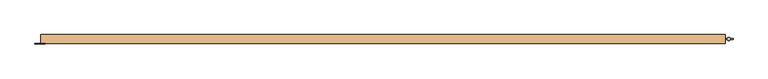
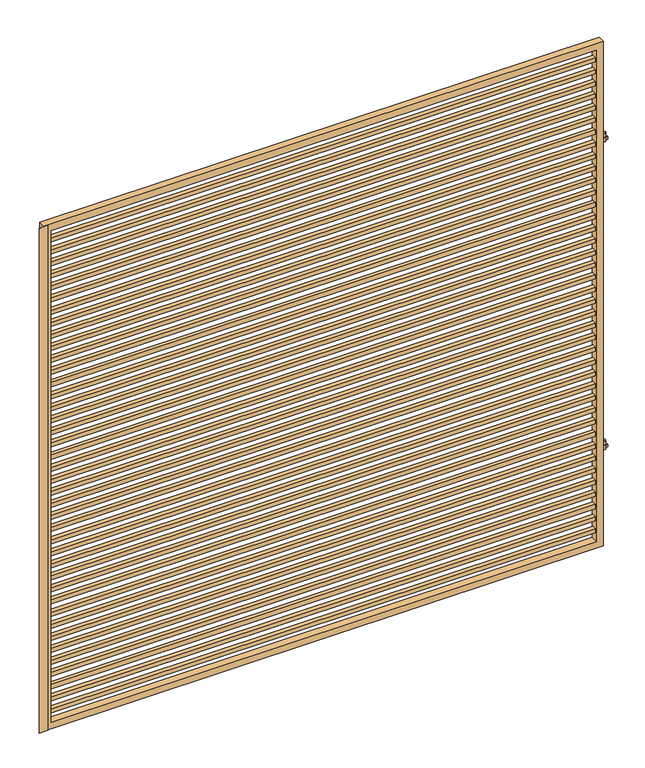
"""IFC4 building model written with IfcOpenShell, lengths in millimetres: door geometry, Portão Ripado Horizontal : Portão paramétrico."""

from ifc_helpers import new_model, si_unit, frame, origin, place, context, project, spatial, polyline, circle_curve, outline, extrude, source, transform, mapped, element, save
from ifc_brep_helpers import plane_surface, cylinder_surface, advanced_brep


def door_4ddf0b88(model_context):
    return source(origin(), model_context, "Body", "SolidModel", [
        extrude(outline(polyline([(-1910.0, -50.0), (-1910.0, -20.0), (1910.0, -20.0), (1910.0, -50.0), (-1910.0, -50.0)])), frame((0.0, 0.0, 3540.5128205), z_axis=(0.0, 0.0, 1.0), x_axis=(1.0, 0.0, 0.0)), (0.0, 0.0, 1.0), 30.0),
        extrude(outline(polyline([(-1910.0, -50.0), (-1910.0, -20.0), (1910.0, -20.0), (1910.0, -50.0), (-1910.0, -50.0)])), frame((0.0, 0.0, 3451.025641), z_axis=(0.0, 0.0, 1.0), x_axis=(1.0, 0.0, 0.0)), (0.0, 0.0, 1.0), 30.0),
        extrude(outline(polyline([(-1910.0, -50.0), (-1910.0, -20.0), (1910.0, -20.0), (1910.0, -50.0), (-1910.0, -50.0)])), frame((0.0, 0.0, 3361.5384615), z_axis=(0.0, 0.0, 1.0), x_axis=(1.0, 0.0, 0.0)), (0.0, 0.0, 1.0), 30.0),
        extrude(outline(polyline([(-1910.0, -50.0), (-1910.0, -20.0), (1910.0, -20.0), (1910.0, -50.0), (-1910.0, -50.0)])), frame((0.0, 0.0, 3272.051282), z_axis=(0.0, 0.0, 1.0), x_axis=(1.0, 0.0, 0.0)), (0.0, 0.0, 1.0), 30.0),
        extrude(outline(polyline([(-1910.0, -50.0), (-1910.0, -20.0), (1910.0, -20.0), (1910.0, -50.0), (-1910.0, -50.0)])), frame((0.0, 0.0, 3182.5641026), z_axis=(0.0, 0.0, 1.0), x_axis=(1.0, 0.0, 0.0)), (0.0, 0.0, 1.0), 30.0),
        extrude(outline(polyline([(-1910.0, -50.0), (-1910.0, -20.0), (1910.0, -20.0), (1910.0, -50.0), (-1910.0, -50.0)])), frame((0.0, 0.0, 3093.0769231), z_axis=(0.0, 0.0, 1.0), x_axis=(1.0, 0.0, 0.0)), (0.0, 0.0, 1.0), 30.0),
        extrude(outline(polyline([(-1910.0, -50.0), (-1910.0, -20.0), (1910.0, -20.0), (1910.0, -50.0), (-1910.0, -50.0)])), frame((0.0, 0.0, 3003.5897436), z_axis=(0.0, 0.0, 1.0), x_axis=(1.0, 0.0, 0.0)), (0.0, 0.0, 1.0), 30.0),
        extrude(outline(polyline([(-1910.0, -50.0), (-1910.0, -20.0), (1910.0, -20.0), (1910.0, -50.0), (-1910.0, -50.0)])), frame((0.0, 0.0, 2914.1025641), z_axis=(0.0, 0.0, 1.0), x_axis=(1.0, 0.0, 0.0)), (0.0, 0.0, 1.0), 30.0),
        extrude(outline(polyline([(-1910.0, -50.0), (-1910.0, -20.0), (1910.0, -20.0), (1910.0, -50.0), (-1910.0, -50.0)])), frame((0.0, 0.0, 2824.6153846), z_axis=(0.0, 0.0, 1.0), x_axis=(1.0, 0.0, 0.0)), (0.0, 0.0, 1.0), 30.0),
        extrude(outline(polyline([(-1910.0, -50.0), (-1910.0, -20.0), (1910.0, -20.0), (1910.0, -50.0), (-1910.0, -50.0)])), frame((0.0, 0.0, 2735.1282051), z_axis=(0.0, 0.0, 1.0), x_axis=(1.0, 0.0, 0.0)), (0.0, 0.0, 1.0), 30.0),
        extrude(outline(polyline([(-1910.0, -50.0), (-1910.0, -20.0), (1910.0, -20.0), (1910.0, -50.0), (-1910.0, -50.0)])), frame((0.0, 0.0, 2645.6410256), z_axis=(0.0, 0.0, 1.0), x_axis=(1.0, 0.0, 0.0)), (0.0, 0.0, 1.0), 30.0),
        extrude(outline(polyline([(-1910.0, -50.0), (-1910.0, -20.0), (1910.0, -20.0), (1910.0, -50.0), (-1910.0, -50.0)])), frame((0.0, 0.0, 2556.1538462), z_axis=(0.0, 0.0, 1.0), x_axis=(1.0, 0.0, 0.0)), (0.0, 0.0, 1.0), 30.0),
        extrude(outline(polyline([(-1910.0, -50.0), (-1910.0, -20.0), (1910.0, -20.0), (1910.0, -50.0), (-1910.0, -50.0)])), frame((0.0, 0.0, 2466.6666667), z_axis=(0.0, 0.0, 1.0), x_axis=(1.0, 0.0, 0.0)), (0.0, 0.0, 1.0), 30.0),
        extrude(outline(polyline([(-1910.0, -50.0), (-1910.0, -20.0), (1910.0, -20.0), (1910.0, -50.0), (-1910.0, -50.0)])), frame((0.0, 0.0, 2377.1794872), z_axis=(0.0, 0.0, 1.0), x_axis=(1.0, 0.0, 0.0)), (0.0, 0.0, 1.0), 30.0),
        extrude(outline(polyline([(-1910.0, -50.0), (-1910.0, -20.0), (1910.0, -20.0), (1910.0, -50.0), (-1910.0, -50.0)])), frame((0.0, 0.0, 2287.6923077), z_axis=(0.0, 0.0, 1.0), x_axis=(1.0, 0.0, 0.0)), (0.0, 0.0, 1.0), 30.0),
        extrude(outline(polyline([(-1910.0, -50.0), (-1910.0, -20.0), (1910.0, -20.0), (1910.0, -50.0), (-1910.0, -50.0)])), frame((0.0, 0.0, 2198.2051282), z_axis=(0.0, 0.0, 1.0), x_axis=(1.0, 0.0, 0.0)), (0.0, 0.0, 1.0), 30.0),
        extrude(outline(polyline([(-1910.0, -50.0), (-1910.0, -20.0), (1910.0, -20.0), (1910.0, -50.0), (-1910.0, -50.0)])), frame((0.0, 0.0, 2108.7179487), z_axis=(0.0, 0.0, 1.0), x_axis=(1.0, 0.0, 0.0)), (0.0, 0.0, 1.0), 30.0),
        extrude(outline(polyline([(-1910.0, -50.0), (-1910.0, -20.0), (1910.0, -20.0), (1910.0, -50.0), (-1910.0, -50.0)])), frame((0.0, 0.0, 2019.2307692), z_axis=(0.0, 0.0, 1.0), x_axis=(1.0, 0.0, 0.0)), (0.0, 0.0, 1.0), 30.0),
        extrude(outline(polyline([(-1910.0, -50.0), (-1910.0, -20.0), (1910.0, -20.0), (1910.0, -50.0), (-1910.0, -50.0)])), frame((0.0, 0.0, 1929.7435897), z_axis=(0.0, 0.0, 1.0), x_axis=(1.0, 0.0, 0.0)), (0.0, 0.0, 1.0), 30.0),
        extrude(outline(polyline([(-1910.0, -50.0), (-1910.0, -20.0), (1910.0, -20.0), (1910.0, -50.0), (-1910.0, -50.0)])), frame((0.0, 0.0, 1840.2564103), z_axis=(0.0, 0.0, 1.0), x_axis=(1.0, 0.0, 0.0)), (0.0, 0.0, 1.0), 30.0),
        advanced_brep(
        [(1989.5, -35.0, 3040.0), (1970.5, -35.0, 3040.0), (1989.5, -35.0, 3008.0), (1970.5, -35.0, 3008.0), (1989.5, -35.0, 3035.0), (1988.9889792, -31.9261989, 3035.0), (1988.9889792, -31.9261989, 3015.0), (1989.5, -35.0, 3015.0), (1988.9889792, -38.0738011, 3015.0), (1988.9889792, -38.0738011, 3035.0), (2005.0, -38.0738011, 3035.0), (2005.0, -31.9261989, 3035.0), (2005.0, -31.9261989, 3015.0), (2005.0, -38.0738011, 3015.0)],
        [
            (0, 1, circle_curve(frame((1980.0, -35.0, 3040.0), z_axis=(0.0, 0.0, 1.0), x_axis=(-1.0, 0.0, 0.0)), 9.5)),
            (1, 0, circle_curve(frame((1980.0, -35.0, 3040.0), z_axis=(0.0, 0.0, 1.0), x_axis=(-1.0, 0.0, 0.0)), 9.5)),
            (2, 3, circle_curve(frame((1980.0, -35.0, 3008.0), z_axis=(0.0, 0.0, -1.0), x_axis=(-1.0, 0.0, 0.0)), 9.5)),
            (3, 2, circle_curve(frame((1980.0, -35.0, 3008.0), z_axis=(0.0, 0.0, -1.0), x_axis=(-1.0, 0.0, 0.0)), 9.5)),
            (0, 4),
            (4, 5, circle_curve(frame((1980.0, -35.0, 3035.0), z_axis=(0.0, 0.0, 1.0), x_axis=(-1.0, 0.0, 0.0)), 9.5)),
            (5, 6),
            (6, 7, circle_curve(frame((1980.0, -35.0, 3015.0), z_axis=(0.0, 0.0, -1.0), x_axis=(-1.0, 0.0, 0.0)), 9.5)),
            (7, 2),
            (3, 1),
            (7, 8, circle_curve(frame((1980.0, -35.0, 3015.0), z_axis=(0.0, 0.0, -1.0), x_axis=(-1.0, 0.0, 0.0)), 9.5)),
            (8, 9),
            (9, 4, circle_curve(frame((1980.0, -35.0, 3035.0), z_axis=(0.0, 0.0, 1.0), x_axis=(-1.0, 0.0, 0.0)), 9.5)),
            (10, 11),
            (11, 5),
            (9, 10),
            (12, 13),
            (13, 8),
            (6, 12),
            (13, 10),
            (12, 11),
        ],
        [
            plane_surface(frame((1970.5, -35.0, 3040.0), z_axis=(0.0, 0.0, 1.0), x_axis=(0.0, -1.0, 0.0))),
            plane_surface(frame((1970.5, -35.0, 3008.0), z_axis=(0.0, 0.0, -1.0), x_axis=(0.0, 1.0, 0.0))),
            cylinder_surface(frame((1980.0, -35.0, 3008.0), z_axis=(0.0, 0.0, 1.0), x_axis=(-1.0, 0.0, 0.0)), 9.5),
            plane_surface(frame((2003.8157703, -38.0738011, 3035.0), z_axis=(0.0, 0.0, 1.0), x_axis=(1.0, 0.0, 0.0))),
            plane_surface(frame((2003.8157703, -38.0738011, 3015.0), z_axis=(0.0, 0.0, -1.0), x_axis=(-1.0, 0.0, 0.0))),
            plane_surface(frame((1985.9658936, -38.0738011, 3035.0), z_axis=(0.0, -1.0, 0.0), x_axis=(0.0, 0.0, -1.0))),
            plane_surface(frame((2005.0, -38.0738011, 3035.0), z_axis=(1.0, 0.0, 0.0), x_axis=(0.0, 0.0, -1.0))),
            plane_surface(frame((2005.0, -31.9261989, 3035.0), z_axis=(0.0, 1.0, 0.0), x_axis=(0.0, 0.0, -1.0))),
        ],
        [
            (0, [[1, 2]]),
            (1, [[3, 4]]),
            (2, [[-1, 5, 6, 7, 8, 9, -4, 10]]),
            (2, [[-2, -10, -3, -9, 11, 12, 13, -5]]),
            (3, [[14, 15, -6, -13, 16]]),
            (4, [[17, 18, -11, -8, 19]]),
            (5, [[20, -16, -12, -18]]),
            (6, [[-14, -20, -17, 21]]),
            (7, [[-21, -19, -7, -15]]),
        ],
    ),
        advanced_brep(
        [(1955.0, -31.9261989, 3065.3181331), (1955.0, -38.0738011, 3065.3181331), (1971.0110208, -38.0738011, 3065.3181331), (1970.5, -35.0, 3065.3181331), (1971.0110208, -31.9261989, 3065.3181331), (1955.0, -38.0738011, 3045.3181331), (1955.0, -31.9261989, 3045.3181331), (1971.0110208, -31.9261989, 3045.3181331), (1970.5, -35.0, 3045.3181331), (1971.0110208, -38.0738011, 3045.3181331), (1989.5, -35.0, 3072.0), (1970.5, -35.0, 3072.0), (1989.5, -35.0, 3040.0), (1970.5, -35.0, 3040.0)],
        [
            (0, 1),
            (1, 2),
            (2, 3, circle_curve(frame((1980.0, -35.0, 3065.3181331), z_axis=(0.0, 0.0, -1.0), x_axis=(-1.0, 0.0, 0.0)), 9.5)),
            (3, 4, circle_curve(frame((1980.0, -35.0, 3065.3181331), z_axis=(0.0, 0.0, -1.0), x_axis=(-1.0, 0.0, 0.0)), 9.5)),
            (4, 0),
            (5, 6),
            (6, 7),
            (7, 8, circle_curve(frame((1980.0, -35.0, 3045.3181331), z_axis=(0.0, 0.0, 1.0), x_axis=(-1.0, 0.0, 0.0)), 9.5)),
            (8, 9, circle_curve(frame((1980.0, -35.0, 3045.3181331), z_axis=(0.0, 0.0, 1.0), x_axis=(-1.0, 0.0, 0.0)), 9.5)),
            (9, 5),
            (1, 5),
            (9, 2),
            (6, 0),
            (4, 7),
            (10, 11, circle_curve(frame((1980.0, -35.0, 3072.0), z_axis=(0.0, 0.0, 1.0), x_axis=(-1.0, 0.0, 0.0)), 9.5)),
            (11, 10, circle_curve(frame((1980.0, -35.0, 3072.0), z_axis=(0.0, 0.0, 1.0), x_axis=(-1.0, 0.0, 0.0)), 9.5)),
            (12, 13, circle_curve(frame((1980.0, -35.0, 3040.0), z_axis=(0.0, 0.0, -1.0), x_axis=(-1.0, 0.0, 0.0)), 9.5)),
            (13, 12, circle_curve(frame((1980.0, -35.0, 3040.0), z_axis=(0.0, 0.0, -1.0), x_axis=(-1.0, 0.0, 0.0)), 9.5)),
            (10, 12),
            (13, 8),
            (3, 11),
        ],
        [
            plane_surface(frame((1968.0739421, -38.0738011, 3065.3181331), z_axis=(0.0, 0.0, 1.0), x_axis=(1.0, 0.0, 0.0))),
            plane_surface(frame((1968.0739421, -38.0738011, 3045.3181331), z_axis=(0.0, 0.0, -1.0), x_axis=(-1.0, 0.0, 0.0))),
            plane_surface(frame((1955.0, -38.0738011, 3065.3181331), z_axis=(0.0, -1.0, 0.0), x_axis=(0.0, 0.0, -1.0))),
            plane_surface(frame((1974.0, -31.9261989, 3065.3181331), z_axis=(0.0, 1.0, 0.0), x_axis=(0.0, 0.0, -1.0))),
            plane_surface(frame((1955.0, -31.9261989, 3065.3181331), z_axis=(-1.0, 0.0, 0.0), x_axis=(0.0, 0.0, -1.0))),
            plane_surface(frame((1970.5, -35.0, 3072.0), z_axis=(0.0, 0.0, 1.0), x_axis=(0.0, -1.0, 0.0))),
            plane_surface(frame((1970.5, -35.0, 3040.0), z_axis=(0.0, 0.0, -1.0), x_axis=(0.0, 1.0, 0.0))),
            cylinder_surface(frame((1980.0, -35.0, 3040.0), z_axis=(0.0, 0.0, 1.0), x_axis=(-1.0, 0.0, 0.0)), 9.5),
        ],
        [
            (0, [[1, 2, 3, 4, 5]]),
            (1, [[6, 7, 8, 9, 10]]),
            (2, [[11, -10, 12, -2]]),
            (3, [[13, -5, 14, -7]]),
            (4, [[-1, -13, -6, -11]]),
            (5, [[15, 16]]),
            (6, [[17, 18]]),
            (7, [[-15, 19, -18, 20, -8, -14, -4, 21]]),
            (7, [[-16, -21, -3, -12, -9, -20, -17, -19]]),
        ],
    ),
        advanced_brep(
        [(1989.5, -35.0, 760.0), (1970.5, -35.0, 760.0), (1989.5, -35.0, 728.0), (1970.5, -35.0, 728.0), (1989.5, -35.0, 755.0), (1988.9889792, -31.9261989, 755.0), (1988.9889792, -31.9261989, 735.0), (1989.5, -35.0, 735.0), (1988.9889792, -38.0738011, 735.0), (1988.9889792, -38.0738011, 755.0), (2005.0, -38.0738011, 755.0), (2005.0, -31.9261989, 755.0), (2005.0, -31.9261989, 735.0), (2005.0, -38.0738011, 735.0)],
        [
            (0, 1, circle_curve(frame((1980.0, -35.0, 760.0), z_axis=(0.0, 0.0, 1.0), x_axis=(-1.0, 0.0, 0.0)), 9.5)),
            (1, 0, circle_curve(frame((1980.0, -35.0, 760.0), z_axis=(0.0, 0.0, 1.0), x_axis=(-1.0, 0.0, 0.0)), 9.5)),
            (2, 3, circle_curve(frame((1980.0, -35.0, 728.0), z_axis=(0.0, 0.0, -1.0), x_axis=(-1.0, 0.0, 0.0)), 9.5)),
            (3, 2, circle_curve(frame((1980.0, -35.0, 728.0), z_axis=(0.0, 0.0, -1.0), x_axis=(-1.0, 0.0, 0.0)), 9.5)),
            (0, 4),
            (4, 5, circle_curve(frame((1980.0, -35.0, 755.0), z_axis=(0.0, 0.0, 1.0), x_axis=(-1.0, 0.0, 0.0)), 9.5)),
            (5, 6),
            (6, 7, circle_curve(frame((1980.0, -35.0, 735.0), z_axis=(0.0, 0.0, -1.0), x_axis=(-1.0, 0.0, 0.0)), 9.5)),
            (7, 2),
            (3, 1),
            (7, 8, circle_curve(frame((1980.0, -35.0, 735.0), z_axis=(0.0, 0.0, -1.0), x_axis=(-1.0, 0.0, 0.0)), 9.5)),
            (8, 9),
            (9, 4, circle_curve(frame((1980.0, -35.0, 755.0), z_axis=(0.0, 0.0, 1.0), x_axis=(-1.0, 0.0, 0.0)), 9.5)),
            (10, 11),
            (11, 5),
            (9, 10),
            (12, 13),
            (13, 8),
            (6, 12),
            (13, 10),
            (12, 11),
        ],
        [
            plane_surface(frame((1970.5, -35.0, 760.0), z_axis=(0.0, 0.0, 1.0), x_axis=(0.0, -1.0, 0.0))),
            plane_surface(frame((1970.5, -35.0, 728.0), z_axis=(0.0, 0.0, -1.0), x_axis=(0.0, 1.0, 0.0))),
            cylinder_surface(frame((1980.0, -35.0, 728.0), z_axis=(0.0, 0.0, 1.0), x_axis=(-1.0, 0.0, 0.0)), 9.5),
            plane_surface(frame((2003.8157703, -38.0738011, 755.0), z_axis=(0.0, 0.0, 1.0), x_axis=(1.0, 0.0, 0.0))),
            plane_surface(frame((2003.8157703, -38.0738011, 735.0), z_axis=(0.0, 0.0, -1.0), x_axis=(-1.0, 0.0, 0.0))),
            plane_surface(frame((1985.9658936, -38.0738011, 755.0), z_axis=(0.0, -1.0, 0.0), x_axis=(0.0, 0.0, -1.0))),
            plane_surface(frame((2005.0, -38.0738011, 755.0), z_axis=(1.0, 0.0, 0.0), x_axis=(0.0, 0.0, -1.0))),
            plane_surface(frame((2005.0, -31.9261989, 755.0), z_axis=(0.0, 1.0, 0.0), x_axis=(0.0, 0.0, -1.0))),
        ],
        [
            (0, [[1, 2]]),
            (1, [[3, 4]]),
            (2, [[-1, 5, 6, 7, 8, 9, -4, 10]]),
            (2, [[-2, -10, -3, -9, 11, 12, 13, -5]]),
            (3, [[14, 15, -6, -13, 16]]),
            (4, [[17, 18, -11, -8, 19]]),
            (5, [[20, -16, -12, -18]]),
            (6, [[-14, -20, -17, 21]]),
            (7, [[-21, -19, -7, -15]]),
        ],
    ),
        advanced_brep(
        [(1955.0, -31.9261989, 785.3181331), (1955.0, -38.0738011, 785.3181331), (1971.0110208, -38.0738011, 785.3181331), (1970.5, -35.0, 785.3181331), (1971.0110208, -31.9261989, 785.3181331), (1955.0, -38.0738011, 765.3181331), (1955.0, -31.9261989, 765.3181331), (1971.0110208, -31.9261989, 765.3181331), (1970.5, -35.0, 765.3181331), (1971.0110208, -38.0738011, 765.3181331), (1989.5, -35.0, 792.0), (1970.5, -35.0, 792.0), (1989.5, -35.0, 760.0), (1970.5, -35.0, 760.0)],
        [
            (0, 1),
            (1, 2),
            (2, 3, circle_curve(frame((1980.0, -35.0, 785.3181331), z_axis=(0.0, 0.0, -1.0), x_axis=(-1.0, 0.0, 0.0)), 9.5)),
            (3, 4, circle_curve(frame((1980.0, -35.0, 785.3181331), z_axis=(0.0, 0.0, -1.0), x_axis=(-1.0, 0.0, 0.0)), 9.5)),
            (4, 0),
            (5, 6),
            (6, 7),
            (7, 8, circle_curve(frame((1980.0, -35.0, 765.3181331), z_axis=(0.0, 0.0, 1.0), x_axis=(-1.0, 0.0, 0.0)), 9.5)),
            (8, 9, circle_curve(frame((1980.0, -35.0, 765.3181331), z_axis=(0.0, 0.0, 1.0), x_axis=(-1.0, 0.0, 0.0)), 9.5)),
            (9, 5),
            (1, 5),
            (9, 2),
            (6, 0),
            (4, 7),
            (10, 11, circle_curve(frame((1980.0, -35.0, 792.0), z_axis=(0.0, 0.0, 1.0), x_axis=(-1.0, 0.0, 0.0)), 9.5)),
            (11, 10, circle_curve(frame((1980.0, -35.0, 792.0), z_axis=(0.0, 0.0, 1.0), x_axis=(-1.0, 0.0, 0.0)), 9.5)),
            (12, 13, circle_curve(frame((1980.0, -35.0, 760.0), z_axis=(0.0, 0.0, -1.0), x_axis=(-1.0, 0.0, 0.0)), 9.5)),
            (13, 12, circle_curve(frame((1980.0, -35.0, 760.0), z_axis=(0.0, 0.0, -1.0), x_axis=(-1.0, 0.0, 0.0)), 9.5)),
            (10, 12),
            (13, 8),
            (3, 11),
        ],
        [
            plane_surface(frame((1968.0739421, -38.0738011, 785.3181331), z_axis=(0.0, 0.0, 1.0), x_axis=(1.0, 0.0, 0.0))),
            plane_surface(frame((1968.0739421, -38.0738011, 765.3181331), z_axis=(0.0, 0.0, -1.0), x_axis=(-1.0, 0.0, 0.0))),
            plane_surface(frame((1955.0, -38.0738011, 785.3181331), z_axis=(0.0, -1.0, 0.0), x_axis=(0.0, 0.0, -1.0))),
            plane_surface(frame((1974.0, -31.9261989, 785.3181331), z_axis=(0.0, 1.0, 0.0), x_axis=(0.0, 0.0, -1.0))),
            plane_surface(frame((1955.0, -31.9261989, 785.3181331), z_axis=(-1.0, 0.0, 0.0), x_axis=(0.0, 0.0, -1.0))),
            plane_surface(frame((1970.5, -35.0, 792.0), z_axis=(0.0, 0.0, 1.0), x_axis=(0.0, -1.0, 0.0))),
            plane_surface(frame((1970.5, -35.0, 760.0), z_axis=(0.0, 0.0, -1.0), x_axis=(0.0, 1.0, 0.0))),
            cylinder_surface(frame((1980.0, -35.0, 760.0), z_axis=(0.0, 0.0, 1.0), x_axis=(-1.0, 0.0, 0.0)), 9.5),
        ],
        [
            (0, [[1, 2, 3, 4, 5]]),
            (1, [[6, 7, 8, 9, 10]]),
            (2, [[11, -10, 12, -2]]),
            (3, [[13, -5, 14, -7]]),
            (4, [[-1, -13, -6, -11]]),
            (5, [[15, 16]]),
            (6, [[17, 18]]),
            (7, [[-15, 19, -18, 20, -8, -14, -4, 21]]),
            (7, [[-16, -21, -3, -12, -9, -20, -17, -19]]),
        ],
    ),
        extrude(outline(polyline([(-1910.0, -50.0), (-1910.0, -20.0), (1910.0, -20.0), (1910.0, -50.0), (-1910.0, -50.0)])), frame((0.0, 0.0, 1750.7692308), z_axis=(0.0, 0.0, 1.0), x_axis=(1.0, 0.0, 0.0)), (0.0, 0.0, 1.0), 30.0),
        extrude(outline(polyline([(-1910.0, -50.0), (-1910.0, -20.0), (1910.0, -20.0), (1910.0, -50.0), (-1910.0, -50.0)])), frame((0.0, 0.0, 1661.2820513), z_axis=(0.0, 0.0, 1.0), x_axis=(1.0, 0.0, 0.0)), (0.0, 0.0, 1.0), 30.0),
        extrude(outline(polyline([(-1910.0, -50.0), (-1910.0, -20.0), (1910.0, -20.0), (1910.0, -50.0), (-1910.0, -50.0)])), frame((0.0, 0.0, 1571.7948718), z_axis=(0.0, 0.0, 1.0), x_axis=(1.0, 0.0, 0.0)), (0.0, 0.0, 1.0), 30.0),
        extrude(outline(polyline([(-1910.0, -50.0), (-1910.0, -20.0), (1910.0, -20.0), (1910.0, -50.0), (-1910.0, -50.0)])), frame((0.0, 0.0, 1482.3076923), z_axis=(0.0, 0.0, 1.0), x_axis=(1.0, 0.0, 0.0)), (0.0, 0.0, 1.0), 30.0),
        extrude(outline(polyline([(-1910.0, -50.0), (-1910.0, -20.0), (1910.0, -20.0), (1910.0, -50.0), (-1910.0, -50.0)])), frame((0.0, 0.0, 1392.8205128), z_axis=(0.0, 0.0, 1.0), x_axis=(1.0, 0.0, 0.0)), (0.0, 0.0, 1.0), 30.0),
        extrude(outline(polyline([(-1910.0, -50.0), (-1910.0, -20.0), (1910.0, -20.0), (1910.0, -50.0), (-1910.0, -50.0)])), frame((0.0, 0.0, 1303.3333333), z_axis=(0.0, 0.0, 1.0), x_axis=(1.0, 0.0, 0.0)), (0.0, 0.0, 1.0), 30.0),
        extrude(outline(polyline([(-1910.0, -50.0), (-1910.0, -20.0), (1910.0, -20.0), (1910.0, -50.0), (-1910.0, -50.0)])), frame((0.0, 0.0, 1213.8461538), z_axis=(0.0, 0.0, 1.0), x_axis=(1.0, 0.0, 0.0)), (0.0, 0.0, 1.0), 30.0),
        extrude(outline(polyline([(-1910.0, -50.0), (-1910.0, -20.0), (1910.0, -20.0), (1910.0, -50.0), (-1910.0, -50.0)])), frame((0.0, 0.0, 1124.3589744), z_axis=(0.0, 0.0, 1.0), x_axis=(1.0, 0.0, 0.0)), (0.0, 0.0, 1.0), 30.0),
        extrude(outline(polyline([(-1910.0, -50.0), (-1910.0, -20.0), (1910.0, -20.0), (1910.0, -50.0), (-1910.0, -50.0)])), frame((0.0, 0.0, 1034.8717949), z_axis=(0.0, 0.0, 1.0), x_axis=(1.0, 0.0, 0.0)), (0.0, 0.0, 1.0), 30.0),
        extrude(outline(polyline([(-1910.0, -50.0), (-1910.0, -20.0), (1910.0, -20.0), (1910.0, -50.0), (-1910.0, -50.0)])), frame((0.0, 0.0, 945.3846154), z_axis=(0.0, 0.0, 1.0), x_axis=(1.0, 0.0, 0.0)), (0.0, 0.0, 1.0), 30.0),
        extrude(outline(polyline([(-1910.0, -50.0), (-1910.0, -20.0), (1910.0, -20.0), (1910.0, -50.0), (-1910.0, -50.0)])), frame((0.0, 0.0, 855.8974359), z_axis=(0.0, 0.0, 1.0), x_axis=(1.0, 0.0, 0.0)), (0.0, 0.0, 1.0), 30.0),
        extrude(outline(polyline([(-1910.0, -50.0), (-1910.0, -20.0), (1910.0, -20.0), (1910.0, -50.0), (-1910.0, -50.0)])), frame((0.0, 0.0, 766.4102564), z_axis=(0.0, 0.0, 1.0), x_axis=(1.0, 0.0, 0.0)), (0.0, 0.0, 1.0), 30.0),
        extrude(outline(polyline([(-1910.0, -50.0), (-1910.0, -20.0), (1910.0, -20.0), (1910.0, -50.0), (-1910.0, -50.0)])), frame((0.0, 0.0, 676.9230769), z_axis=(0.0, 0.0, 1.0), x_axis=(1.0, 0.0, 0.0)), (0.0, 0.0, 1.0), 30.0),
        extrude(outline(polyline([(-1910.0, -50.0), (-1910.0, -20.0), (1910.0, -20.0), (1910.0, -50.0), (-1910.0, -50.0)])), frame((0.0, 0.0, 587.4358974), z_axis=(0.0, 0.0, 1.0), x_axis=(1.0, 0.0, 0.0)), (0.0, 0.0, 1.0), 30.0),
        extrude(outline(polyline([(-1910.0, -50.0), (-1910.0, -20.0), (1910.0, -20.0), (1910.0, -50.0), (-1910.0, -50.0)])), frame((0.0, 0.0, 497.9487179), z_axis=(0.0, 0.0, 1.0), x_axis=(1.0, 0.0, 0.0)), (0.0, 0.0, 1.0), 30.0),
        extrude(outline(polyline([(-1910.0, -50.0), (-1910.0, -20.0), (1910.0, -20.0), (1910.0, -50.0), (-1910.0, -50.0)])), frame((0.0, 0.0, 408.4615385), z_axis=(0.0, 0.0, 1.0), x_axis=(1.0, 0.0, 0.0)), (0.0, 0.0, 1.0), 30.0),
        extrude(outline(polyline([(-1910.0, -50.0), (-1910.0, -20.0), (1910.0, -20.0), (1910.0, -50.0), (-1910.0, -50.0)])), frame((0.0, 0.0, 318.974359), z_axis=(0.0, 0.0, 1.0), x_axis=(1.0, 0.0, 0.0)), (0.0, 0.0, 1.0), 30.0),
        extrude(outline(polyline([(-1910.0, -50.0), (-1910.0, -20.0), (1910.0, -20.0), (1910.0, -50.0), (-1910.0, -50.0)])), frame((0.0, 0.0, 229.4871795), z_axis=(0.0, 0.0, 1.0), x_axis=(1.0, 0.0, 0.0)), (0.0, 0.0, 1.0), 30.0),
        extrude(outline(polyline([(-1910.0, -50.0), (-1910.0, -20.0), (1910.0, -20.0), (1910.0, -50.0), (-1910.0, -50.0)])), frame((0.0, 0.0, 3630.0), z_axis=(0.0, 0.0, 1.0), x_axis=(1.0, 0.0, 0.0)), (0.0, 0.0, 1.0), 30.0),
        extrude(outline(polyline([(-1910.0, -50.0), (-1910.0, -20.0), (1910.0, -20.0), (1910.0, -50.0), (-1910.0, -50.0)])), frame((0.0, 0.0, 140.0), z_axis=(0.0, 0.0, 1.0), x_axis=(1.0, 0.0, 0.0)), (0.0, 0.0, 1.0), 30.0),
        extrude(outline(polyline([(-1994.5355901, -60.0), (-1934.5355901, -60.0), (-1934.5355901, -63.0), (-1994.5355901, -63.0), (-1994.5355901, -60.0)])), frame((0.0, 0.0, 30.0), z_axis=(0.0, 0.0, 1.0), x_axis=(1.0, 0.0, 0.0)), (0.0, 0.0, 1.0), 3740.0),
        extrude(outline(polyline([(30.0, -1960.0), (30.0, 1960.0), (3770.0, 1960.0), (3770.0, -1960.0), (30.0, -1960.0)]), holes=[polyline([(3720.0, -1910.0), (3720.0, 1910.0), (80.0, 1910.0), (80.0, -1910.0), (3720.0, -1910.0)])]), frame((0.0, -60.0, 0.0), z_axis=(0.0, 1.0, 0.0), x_axis=(0.0, 0.0, 1.0)), (0.0, 0.0, 1.0), 50.0),
    ])


if __name__ == "__main__":
    model = new_model("IFC4")
    model_context = context("Model", 3, world=origin())
    ifc_project = project(units=[si_unit("LENGTHUNIT", "METRE", prefix="MILLI")], contexts=[model_context])
    site = spatial("IfcSite", under=ifc_project)
    building = spatial("IfcBuilding", under=site)
    placement = place(None, origin())
    door_shape = door_4ddf0b88(model_context)
    element("IfcDoor", 1, ObjectType="Portão Ripado Horizontal : Portão paramétrico", at=placement, inside=building, context=model_context, shape_type="MappedRepresentation", body=[
        mapped(door_shape, transform((0.0, 0.0, 0.0), x_axis=(1.0, 0.0, 0.0), y_axis=(0.0, 1.0, 0.0), z_axis=(0.0, 0.0, 1.0))),
    ])
    save(model, "model.ifc")
